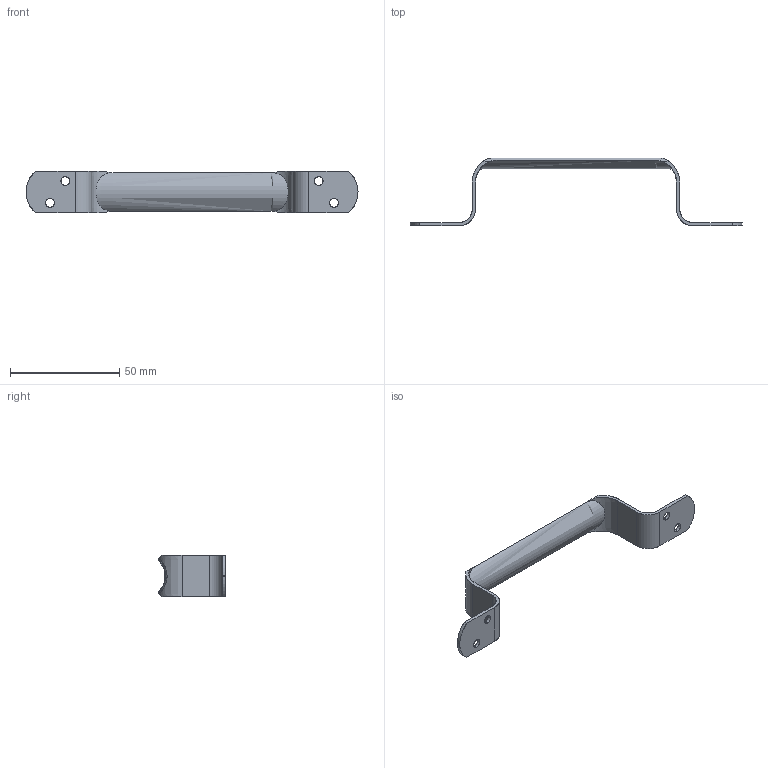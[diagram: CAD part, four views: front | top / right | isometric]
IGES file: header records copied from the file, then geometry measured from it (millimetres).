
Start section: SolidWorks IGES FILE using analytic representation for surfaces
Global section: file name: C:\Documents and Settings\lecoutey\Bureau\PX 1397\PX 1397.IGS; native system: SolidWorks 2004 by SolidWorks Corporation; preprocessor: Version 5.3; author: lecoutey; date: 050408.173225; units: millimetre
Bounding box: 152 x 30.98 x 19 mm (x, y, z)
Surface area: 7874.5 mm2 (no closed solid volume)
Topology: 0 solids, 0 shells, 41 faces, 832 edges, 832 vertices
Faces by surface type: revolution 21, bspline 20
